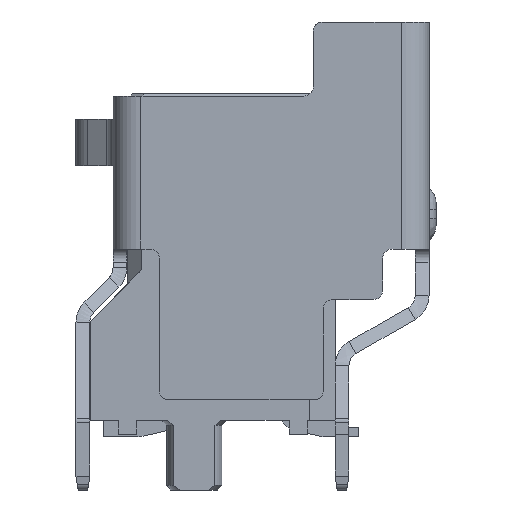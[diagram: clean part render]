
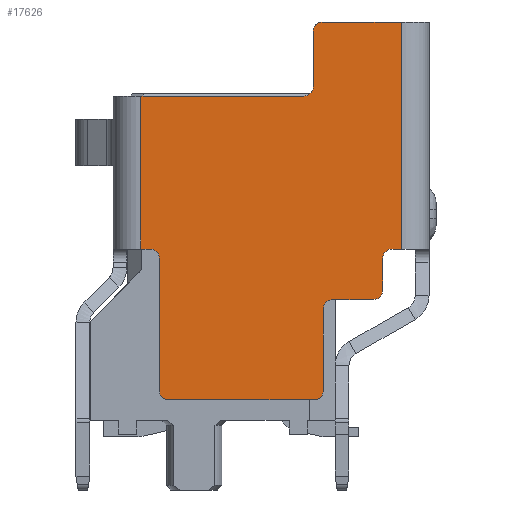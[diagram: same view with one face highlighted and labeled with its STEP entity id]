
A CAD part, left-side view. The second image highlights one B-rep face of the part: STEP entity #17626.
In plain terms, the highlighted planar face has unit normal (-1, 0, 0).
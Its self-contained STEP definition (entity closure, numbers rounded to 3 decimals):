
#4078=DIRECTION('',(0.,0.,1.));
#4079=VECTOR('',#4078,4.9);
#4080=CARTESIAN_POINT('',(-7.5,-4.065,0.325));
#4081=LINE('',#4080,#4079);
#4086=CARTESIAN_POINT('',(-7.5,1.385,3.425));
#4087=DIRECTION('',(1.,0.,0.));
#4088=DIRECTION('',(0.,0.,1.));
#4089=AXIS2_PLACEMENT_3D('',#4086,#4087,#4088);
#4091=CARTESIAN_POINT('',(-7.5,-1.965,3.825));
#4092=DIRECTION('',(-1.,0.,0.));
#4093=DIRECTION('',(0.,0.,-1.));
#4094=AXIS2_PLACEMENT_3D('',#4091,#4092,#4093);
#4096=CARTESIAN_POINT('',(-7.5,-2.365,5.025));
#4097=DIRECTION('',(1.,0.,0.));
#4098=DIRECTION('',(0.,1.,0.));
#4099=AXIS2_PLACEMENT_3D('',#4096,#4097,#4098);
#4101=DIRECTION('',(0.,1.,0.));
#4102=VECTOR('',#4101,0.2);
#4103=CARTESIAN_POINT('',(-7.5,-4.065,0.325));
#4104=LINE('',#4103,#4102);
#4105=CARTESIAN_POINT('',(-7.5,-3.865,0.125));
#4106=DIRECTION('',(-1.,0.,0.));
#4107=DIRECTION('',(0.,0.,1.));
#4108=AXIS2_PLACEMENT_3D('',#4105,#4106,#4107);
#4110=DIRECTION('',(0.,0.,-1.));
#4111=VECTOR('',#4110,0.69);
#4112=CARTESIAN_POINT('',(-7.5,-3.665,0.125));
#4113=LINE('',#4112,#4111);
#4114=CARTESIAN_POINT('',(-7.5,-3.465,-0.565));
#4115=DIRECTION('',(1.,0.,0.));
#4116=DIRECTION('',(0.,-1.,0.));
#4117=AXIS2_PLACEMENT_3D('',#4114,#4115,#4116);
#4119=DIRECTION('',(0.,1.,0.));
#4120=VECTOR('',#4119,0.88);
#4121=CARTESIAN_POINT('',(-7.5,-3.465,-0.765));
#4122=LINE('',#4121,#4120);
#4123=CARTESIAN_POINT('',(-7.5,-2.585,-0.965));
#4124=DIRECTION('',(-1.,0.,0.));
#4125=DIRECTION('',(0.,0.,1.));
#4126=AXIS2_PLACEMENT_3D('',#4123,#4124,#4125);
#4128=DIRECTION('',(0.,0.,-1.));
#4129=VECTOR('',#4128,1.76);
#4130=CARTESIAN_POINT('',(-7.5,-2.385,-0.965));
#4131=LINE('',#4130,#4129);
#4132=CARTESIAN_POINT('',(-7.5,-2.185,-2.725));
#4133=DIRECTION('',(1.,0.,0.));
#4134=DIRECTION('',(0.,-1.,0.));
#4135=AXIS2_PLACEMENT_3D('',#4132,#4133,#4134);
#4137=DIRECTION('',(0.,1.,0.));
#4138=VECTOR('',#4137,3.14);
#4139=CARTESIAN_POINT('',(-7.5,-2.185,-2.925));
#4140=LINE('',#4139,#4138);
#4141=CARTESIAN_POINT('',(-7.5,0.955,-2.725));
#4142=DIRECTION('',(1.,0.,0.));
#4143=DIRECTION('',(0.,0.,-1.));
#4144=AXIS2_PLACEMENT_3D('',#4141,#4142,#4143);
#4146=CARTESIAN_POINT('',(-7.5,1.355,0.125));
#4147=DIRECTION('',(-1.,0.,0.));
#4148=DIRECTION('',(0.,-1.,0.));
#4149=AXIS2_PLACEMENT_3D('',#4146,#4147,#4148);
#4151=DIRECTION('',(0.,1.,0.));
#4152=VECTOR('',#4151,0.2);
#4153=CARTESIAN_POINT('',(-7.5,1.355,0.325));
#4154=LINE('',#4153,#4152);
#4163=DIRECTION('',(0.,1.,0.));
#4164=VECTOR('',#4163,3.337);
#4165=CARTESIAN_POINT('',(-7.5,-1.965,3.625));
#4166=LINE('',#4165,#4164);
#4240=DIRECTION('',(0.,1.,0.));
#4241=VECTOR('',#4240,0.17);
#4242=CARTESIAN_POINT('',(-7.5,1.385,3.625));
#4243=LINE('',#4242,#4241);
#4266=DIRECTION('',(0.,0.,-1.));
#4267=VECTOR('',#4266,3.3);
#4268=CARTESIAN_POINT('',(-7.5,1.555,3.625));
#4269=LINE('',#4268,#4267);
#4296=DIRECTION('',(0.,0.,-1.));
#4297=VECTOR('',#4296,2.85);
#4298=CARTESIAN_POINT('',(-7.5,1.155,0.125));
#4299=LINE('',#4298,#4297);
#5382=DIRECTION('',(0.,1.,0.));
#5383=VECTOR('',#5382,1.7);
#5384=CARTESIAN_POINT('',(-7.5,-4.065,5.225));
#5385=LINE('',#5384,#5383);
#5567=DIRECTION('',(0.,0.,-1.));
#5568=VECTOR('',#5567,1.2);
#5569=CARTESIAN_POINT('',(-7.5,-2.165,5.025));
#5570=LINE('',#5569,#5568);
#11275=CARTESIAN_POINT('',(-7.5,-4.065,0.325));
#11276=VERTEX_POINT('',#11275);
#11281=CARTESIAN_POINT('',(-7.5,-3.865,0.325));
#11282=VERTEX_POINT('',#11281);
#11283=CARTESIAN_POINT('',(-7.5,-4.065,5.225));
#11284=VERTEX_POINT('',#11283);
#11285=CARTESIAN_POINT('',(-7.5,1.385,3.625));
#11286=CARTESIAN_POINT('',(-7.5,1.372,3.625));
#11287=VERTEX_POINT('',#11285);
#11288=VERTEX_POINT('',#11286);
#11289=CARTESIAN_POINT('',(-7.5,-1.965,3.625));
#11290=VERTEX_POINT('',#11289);
#11291=CARTESIAN_POINT('',(-7.5,-2.165,3.825));
#11292=VERTEX_POINT('',#11291);
#11293=CARTESIAN_POINT('',(-7.5,-2.165,5.025));
#11294=VERTEX_POINT('',#11293);
#11295=CARTESIAN_POINT('',(-7.5,-2.365,5.225));
#11296=VERTEX_POINT('',#11295);
#11297=CARTESIAN_POINT('',(-7.5,-3.665,0.125));
#11298=VERTEX_POINT('',#11297);
#11299=CARTESIAN_POINT('',(-7.5,-3.665,-0.565));
#11300=VERTEX_POINT('',#11299);
#11301=CARTESIAN_POINT('',(-7.5,-3.465,-0.765));
#11302=VERTEX_POINT('',#11301);
#11303=CARTESIAN_POINT('',(-7.5,-2.585,-0.765));
#11304=VERTEX_POINT('',#11303);
#11305=CARTESIAN_POINT('',(-7.5,-2.385,-0.965));
#11306=VERTEX_POINT('',#11305);
#11307=CARTESIAN_POINT('',(-7.5,-2.385,-2.725));
#11308=VERTEX_POINT('',#11307);
#11309=CARTESIAN_POINT('',(-7.5,-2.185,-2.925));
#11310=VERTEX_POINT('',#11309);
#11311=CARTESIAN_POINT('',(-7.5,0.955,-2.925));
#11312=VERTEX_POINT('',#11311);
#11313=CARTESIAN_POINT('',(-7.5,1.155,-2.725));
#11314=VERTEX_POINT('',#11313);
#11315=CARTESIAN_POINT('',(-7.5,1.155,0.125));
#11316=VERTEX_POINT('',#11315);
#11317=CARTESIAN_POINT('',(-7.5,1.355,0.325));
#11318=VERTEX_POINT('',#11317);
#11319=CARTESIAN_POINT('',(-7.5,1.555,0.325));
#11320=VERTEX_POINT('',#11319);
#11321=CARTESIAN_POINT('',(-7.5,1.555,3.625));
#11322=VERTEX_POINT('',#11321);
#17577=CARTESIAN_POINT('',(-7.5,-1.255,1.15));
#17578=DIRECTION('',(1.,0.,0.));
#17579=DIRECTION('',(0.,1.,0.));
#17580=AXIS2_PLACEMENT_3D('',#17577,#17578,#17579);
#17581=PLANE('',#17580);
#17583=ORIENTED_EDGE('',*,*,#17582,.T.);
#17585=ORIENTED_EDGE('',*,*,#17584,.F.);
#17587=ORIENTED_EDGE('',*,*,#17586,.T.);
#17589=ORIENTED_EDGE('',*,*,#17588,.F.);
#17591=ORIENTED_EDGE('',*,*,#17590,.T.);
#17593=ORIENTED_EDGE('',*,*,#17592,.F.);
#17594=ORIENTED_EDGE('',*,*,#17569,.F.);
#17595=ORIENTED_EDGE('',*,*,#17558,.T.);
#17597=ORIENTED_EDGE('',*,*,#17596,.T.);
#17599=ORIENTED_EDGE('',*,*,#17598,.T.);
#17601=ORIENTED_EDGE('',*,*,#17600,.T.);
#17603=ORIENTED_EDGE('',*,*,#17602,.T.);
#17605=ORIENTED_EDGE('',*,*,#17604,.T.);
#17607=ORIENTED_EDGE('',*,*,#17606,.T.);
#17609=ORIENTED_EDGE('',*,*,#17608,.T.);
#17611=ORIENTED_EDGE('',*,*,#17610,.T.);
#17613=ORIENTED_EDGE('',*,*,#17612,.T.);
#17615=ORIENTED_EDGE('',*,*,#17614,.F.);
#17617=ORIENTED_EDGE('',*,*,#17616,.T.);
#17619=ORIENTED_EDGE('',*,*,#17618,.T.);
#17621=ORIENTED_EDGE('',*,*,#17620,.F.);
#17623=ORIENTED_EDGE('',*,*,#17622,.F.);
#17624=EDGE_LOOP('',(#17583,#17585,#17587,#17589,#17591,#17593,#17594,#17595,
#17597,#17599,#17601,#17603,#17605,#17607,#17609,#17611,#17613,#17615,#17617,
#17619,#17621,#17623));
#17625=FACE_OUTER_BOUND('',#17624,.F.);
#4090=CIRCLE('',#4089,0.2);
#4095=CIRCLE('',#4094,0.2);
#4100=CIRCLE('',#4099,0.2);
#4109=CIRCLE('',#4108,0.2);
#4118=CIRCLE('',#4117,0.2);
#4127=CIRCLE('',#4126,0.2);
#4136=CIRCLE('',#4135,0.2);
#4145=CIRCLE('',#4144,0.2);
#4150=CIRCLE('',#4149,0.2);
#17558=EDGE_CURVE('',#11276,#11282,#4104,.T.);
#17569=EDGE_CURVE('',#11276,#11284,#4081,.T.);
#17582=EDGE_CURVE('',#11287,#11288,#4090,.T.);
#17584=EDGE_CURVE('',#11290,#11288,#4166,.T.);
#17586=EDGE_CURVE('',#11290,#11292,#4095,.T.);
#17588=EDGE_CURVE('',#11294,#11292,#5570,.T.);
#17590=EDGE_CURVE('',#11294,#11296,#4100,.T.);
#17592=EDGE_CURVE('',#11284,#11296,#5385,.T.);
#17596=EDGE_CURVE('',#11282,#11298,#4109,.T.);
#17598=EDGE_CURVE('',#11298,#11300,#4113,.T.);
#17600=EDGE_CURVE('',#11300,#11302,#4118,.T.);
#17602=EDGE_CURVE('',#11302,#11304,#4122,.T.);
#17604=EDGE_CURVE('',#11304,#11306,#4127,.T.);
#17606=EDGE_CURVE('',#11306,#11308,#4131,.T.);
#17608=EDGE_CURVE('',#11308,#11310,#4136,.T.);
#17610=EDGE_CURVE('',#11310,#11312,#4140,.T.);
#17612=EDGE_CURVE('',#11312,#11314,#4145,.T.);
#17614=EDGE_CURVE('',#11316,#11314,#4299,.T.);
#17616=EDGE_CURVE('',#11316,#11318,#4150,.T.);
#17618=EDGE_CURVE('',#11318,#11320,#4154,.T.);
#17620=EDGE_CURVE('',#11322,#11320,#4269,.T.);
#17622=EDGE_CURVE('',#11287,#11322,#4243,.T.);
#17626=ADVANCED_FACE('',(#17625),#17581,.F.);
